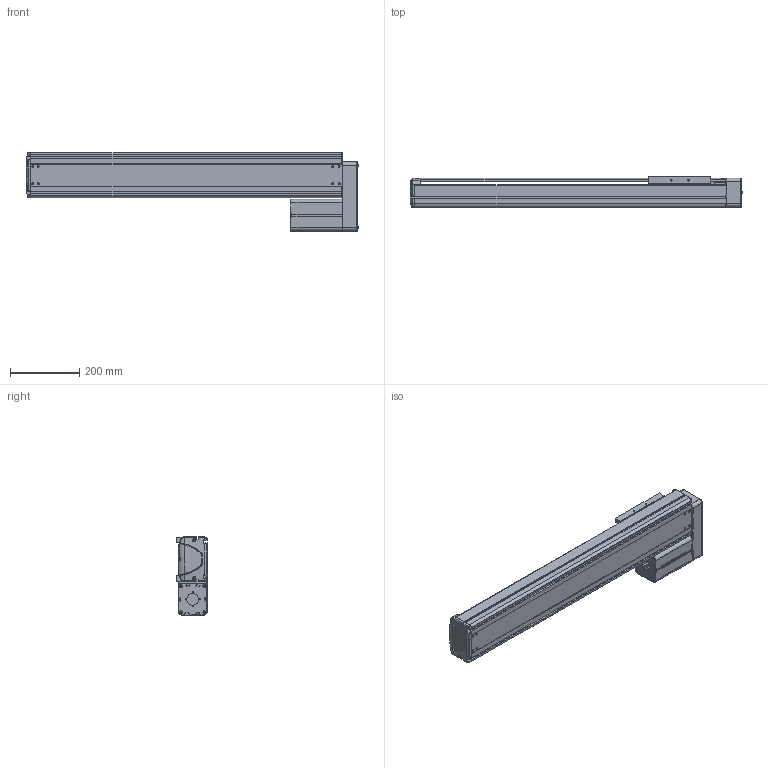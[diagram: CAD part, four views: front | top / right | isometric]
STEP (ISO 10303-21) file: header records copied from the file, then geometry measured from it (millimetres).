
FILE_DESCRIPTION((''),'2;1');
FILE_NAME('BE30E-UL-L_N-65_IGS_PRT','2017-06-17T',(' '),(''),'PRO/ENGINEER BY PARAMETRIC TECHNOLOGY CORPORATION, 2015030','PRO/ENGINEER BY PARAMETRIC TECHNOLOGY CORPORATION, 2015030','');
FILE_SCHEMA(('CONFIG_CONTROL_DESIGN'));
Products named in the file (1): BE30E-UL-L_N-65_IGS_PRT
Bounding box: 961.9 x 89.8 x 227 mm (x, y, z)
Volume: 3296253.3 mm3; surface area: 1424209.1 mm2
Topology: 2 solids, 124 shells, 2036 faces, 5490 edges, 3572 vertices
Faces by surface type: plane 994, cylinder 851, cone 101, torus 38, bspline 28, sphere 24
Entity records: 65984 total; most frequent: CARTESIAN_POINT 13971, DIRECTION 10997, ORIENTED_EDGE 10443, EDGE_CURVE 5452, AXIS2_PLACEMENT_3D 3879, VERTEX_POINT 3572, VECTOR 3239, LINE 3239
